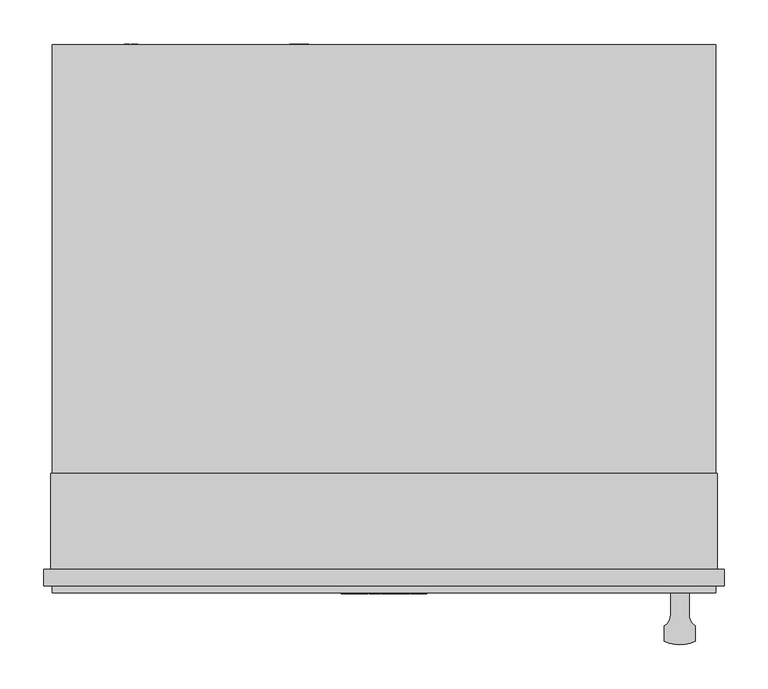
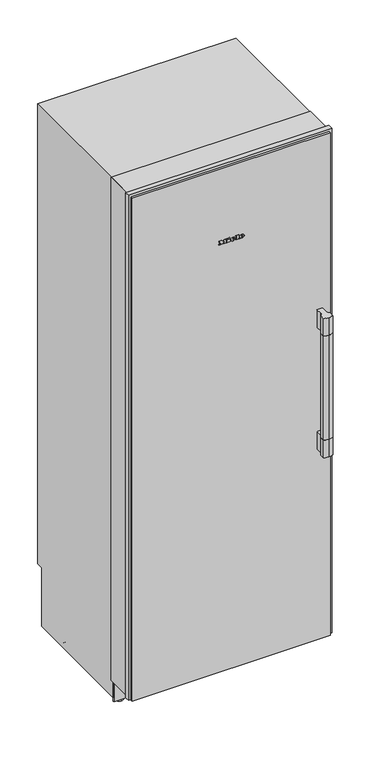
"""IFC4 building model written with IfcOpenShell, lengths in millimetres: proxy geometry, 11503350_USA_F2812SF : 37281211_USA_11503350_F2812SF."""

from ifc_helpers import new_model, si_unit, point, frame, frame_2d, origin, place, context, project, spatial, polyline, circle_curve, ellipse_curve, trimmed, segment, composite_curve, outline, extrude, faceted_brep, source, transform, mapped, element, save
from ifc_brep_helpers import plane_surface, cylinder_surface, revolved_surface, extruded_surface, advanced_brep


def specialty_equipment_0586f4f4(model_context):
    return source(origin(), model_context, "Body", "SolidModel", [
        extrude(outline(polyline([(-367.0, 68.0), (367.0, 68.0), (367.0, 21.0), (-367.0, 21.0), (-367.0, 68.0)])), frame((0.0, 0.0, 265.0), z_axis=(0.0, 0.0, 1.0), x_axis=(1.0, 0.0, 0.0)), (0.0, 0.0, 1.0), 1771.0),
        extrude(outline(polyline([(-213.5, 50.0), (213.5, 50.0), (213.5, 21.0), (-213.5, 21.0), (-213.5, 50.0)])), frame((0.0, 0.0, 2036.0), z_axis=(0.0, 0.0, 1.0), x_axis=(1.0, 0.0, 0.0)), (0.0, 0.0, 1.0), 56.0),
        extrude(outline(polyline([(265.0, 21.0), (265.0, 0.0), (265.0, -21.0), (224.0, -21.0), (224.0, -6.5), (99.0, -6.5), (99.0, 0.0), (99.0, 6.5), (224.0, 6.5), (224.0, 21.0), (265.0, 21.0)])), frame((0.0, 21.0, 0.0), z_axis=(0.0, 1.0, 0.0), x_axis=(0.0, 0.0, 1.0)), (0.0, 0.0, 1.0), 54.0),
        extrude(outline(composite_curve([segment(trimmed(circle_curve(frame_2d((310.9285714, -24.4390599)), 15.5714286), [point((319.5, -37.4390599))], [point((326.5, -24.4390599))], True, "CARTESIAN"), True, "CONTINUOUS"), segment(polyline([(326.5, -24.4390599), (326.5, 0.0), (347.5, 0.0), (347.5, -24.4390599)]), True, "CONTINUOUS"), segment(trimmed(circle_curve(frame_2d((363.0714286, -24.4390599)), 15.5714286), [point((347.5, -24.4390599))], [point((354.5, -37.4390599))], True, "CARTESIAN"), True, "CONTINUOUS"), segment(polyline([(354.5, -37.4390599), (354.5, -55.0)]), True, "CONTINUOUS"), segment(trimmed(circle_curve(frame_2d((337.0, -18.71875)), 40.28125), [point((354.5, -55.0))], [point((337.0, -59.0))], False, "CARTESIAN"), True, "CONTINUOUS"), segment(trimmed(circle_curve(frame_2d((337.0, -18.71875)), 40.28125), [point((337.0, -59.0))], [point((319.5, -55.0))], False, "CARTESIAN"), True, "CONTINUOUS"), segment(polyline([(319.5, -55.0), (319.5, -37.4390599)]), True, "CONTINUOUS")], self_intersect=False)), frame((0.0, 0.0, 858.0), z_axis=(0.0, 0.0, 1.0), x_axis=(1.0, 0.0, 0.0)), (0.0, 0.0, 1.0), 70.0),
        extrude(outline(composite_curve([segment(trimmed(circle_curve(frame_2d((310.9285714, -24.4390599)), 15.5714286), [point((319.5, -37.4390599))], [point((326.5, -24.4390599))], True, "CARTESIAN"), True, "CONTINUOUS"), segment(polyline([(326.5, -24.4390599), (326.5, 0.0), (347.5, 0.0), (347.5, -24.4390599)]), True, "CONTINUOUS"), segment(trimmed(circle_curve(frame_2d((363.0714286, -24.4390599)), 15.5714286), [point((347.5, -24.4390599))], [point((354.5, -37.4390599))], True, "CARTESIAN"), True, "CONTINUOUS"), segment(polyline([(354.5, -37.4390599), (354.5, -55.0)]), True, "CONTINUOUS"), segment(trimmed(circle_curve(frame_2d((337.0, -18.71875)), 40.28125), [point((354.5, -55.0))], [point((337.0, -59.0))], False, "CARTESIAN"), True, "CONTINUOUS"), segment(trimmed(circle_curve(frame_2d((337.0, -18.71875)), 40.28125), [point((337.0, -59.0))], [point((319.5, -55.0))], False, "CARTESIAN"), True, "CONTINUOUS"), segment(polyline([(319.5, -55.0), (319.5, -37.4390599)]), True, "CONTINUOUS")], self_intersect=False)), frame((0.0, 0.0, 1348.0), z_axis=(0.0, 0.0, 1.0), x_axis=(1.0, 0.0, 0.0)), (0.0, 0.0, 1.0), 70.0),
        extrude(outline(composite_curve([segment(trimmed(circle_curve(frame_2d((310.9285714, -24.4390599)), 15.5714286), [point((319.5, -37.4390599))], [point((321.3599688, -36.0))], True, "CARTESIAN"), True, "CONTINUOUS"), segment(polyline([(321.3599688, -36.0), (352.6400312, -36.0)]), True, "CONTINUOUS"), segment(trimmed(circle_curve(frame_2d((363.0714286, -24.4390599)), 15.5714286), [point((352.6400312, -36.0))], [point((354.5, -37.4390599))], True, "CARTESIAN"), True, "CONTINUOUS"), segment(polyline([(354.5, -37.4390599), (354.5, -55.0)]), True, "CONTINUOUS"), segment(trimmed(circle_curve(frame_2d((337.0, -18.71875)), 40.28125), [point((354.5, -55.0))], [point((337.0, -59.0))], False, "CARTESIAN"), True, "CONTINUOUS"), segment(trimmed(circle_curve(frame_2d((337.0, -18.71875)), 40.28125), [point((337.0, -59.0))], [point((319.5, -55.0))], False, "CARTESIAN"), True, "CONTINUOUS"), segment(polyline([(319.5, -55.0), (319.5, -37.4390599)]), True, "CONTINUOUS")], self_intersect=False)), frame((0.0, 0.0, 928.0), z_axis=(0.0, 0.0, 1.0), x_axis=(1.0, 0.0, 0.0)), (0.0, 0.0, 1.0), 420.0),
        extrude(outline(polyline([(-378.0, 21.0), (378.0, 21.0), (378.0, 0.0), (-378.0, 0.0), (-378.0, 21.0)])), frame((0.0, 0.0, 90.0), z_axis=(0.0, 0.0, 1.0), x_axis=(1.0, 0.0, 0.0)), (0.0, 0.0, 1.0), 2023.0),
        advanced_brep(
        [(38.22, -1.0, 1812.792), (38.22, -1.0, 1814.408), (48.924, -1.0, 1814.408), (30.3, -1.0, 1814.408), (34.7, -1.0, 1809.0), (48.652, -1.0, 1812.792), (43.82, -1.0, 1812.792), (40.012, -1.0, 1811.0), (38.22, -1.0, 1816.456), (38.22, -1.0, 1818.2), (40.956, -1.0, 1818.2), (40.956, -1.0, 1816.456), (38.22, 0.0, 1812.792), (40.012, 0.0, 1811.0), (43.82, 0.0, 1812.792), (48.652, 0.0, 1812.792), (34.7, 0.0, 1809.0), (30.3, 0.0, 1814.408), (48.924, 0.0, 1814.408), (38.22, 0.0, 1814.408), (38.22, 0.0, 1816.456), (40.956, 0.0, 1816.456), (40.956, 0.0, 1818.2), (38.22, 0.0, 1818.2)],
        [
            (0, 1),
            (1, 2),
            (2, 3, ellipse_curve(frame((39.612, -1.0, 1814.408), z_axis=(0.0, -1.0, 0.0), x_axis=(-1.0, 0.0, 0.0)), 9.312, 7.696)),
            (3, 4, circle_curve(frame((36.4920873, -1.0, 1814.952), z_axis=(0.0, -1.0, 0.0), x_axis=(0.0, 0.0, -1.0)), 6.2159376)),
            (4, 5, circle_curve(frame((39.4255872, -1.0, 1819.176), z_axis=(0.0, -1.0, 0.0), x_axis=(0.0, 0.0, -1.0)), 11.2197215)),
            (5, 6),
            (6, 7, circle_curve(frame((40.7941176, -1.0, 1814.28), z_axis=(0.0, 1.0, 0.0), x_axis=(0.0, 0.0, -1.0)), 3.3719591)),
            (7, 0, circle_curve(frame((40.012, -1.0, 1812.792), z_axis=(0.0, 1.0, 0.0), x_axis=(0.0, 0.0, -1.0)), 1.792)),
            (8, 9),
            (9, 10, circle_curve(frame((39.588, -1.0, 1818.2), z_axis=(0.0, 1.0, 0.0), x_axis=(0.0, 0.0, -1.0)), 1.368)),
            (10, 11),
            (11, 8),
            (12, 13, circle_curve(frame((40.012, 0.0, 1812.792), z_axis=(0.0, -1.0, 0.0), x_axis=(0.0, 0.0, -1.0)), 1.792)),
            (13, 14, circle_curve(frame((40.7941176, 0.0, 1814.28), z_axis=(0.0, -1.0, 0.0), x_axis=(0.0, 0.0, -1.0)), 3.3719591)),
            (14, 15),
            (15, 16, circle_curve(frame((39.4255872, 0.0, 1819.176), z_axis=(0.0, 1.0, 0.0), x_axis=(0.0, 0.0, -1.0)), 11.2197215)),
            (16, 17, circle_curve(frame((36.4920873, 0.0, 1814.952), z_axis=(0.0, 1.0, 0.0), x_axis=(0.0, 0.0, -1.0)), 6.2159376)),
            (17, 18, ellipse_curve(frame((39.612, 0.0, 1814.408), z_axis=(0.0, 1.0, 0.0), x_axis=(-1.0, 0.0, 0.0)), 9.312, 7.696)),
            (18, 19),
            (19, 12),
            (20, 21),
            (21, 22),
            (22, 23, circle_curve(frame((39.588, 0.0, 1818.2), z_axis=(0.0, -1.0, 0.0), x_axis=(0.0, 0.0, -1.0)), 1.368)),
            (23, 20),
            (0, 12),
            (19, 1),
            (18, 2),
            (5, 15),
            (14, 6),
            (17, 3),
            (13, 7),
            (16, 4),
            (8, 20),
            (23, 9),
            (22, 10),
            (21, 11),
        ],
        [
            plane_surface(frame((38.22, -1.0, 1814.408), z_axis=(0.0, -1.0, 0.0), x_axis=(0.0, 0.0, 1.0))),
            plane_surface(frame((38.22, 0.0, 1814.408), z_axis=(0.0, 1.0, 0.0), x_axis=(0.0, 0.0, -1.0))),
            plane_surface(frame((38.22, -1.0, 1812.792), z_axis=(1.0, 0.0, 0.0), x_axis=(0.0, 1.0, 0.0))),
            plane_surface(frame((38.22, -1.0, 1814.408), z_axis=(0.0, 0.0, -1.0), x_axis=(0.0, 1.0, 0.0))),
            plane_surface(frame((48.652, -1.0, 1812.792), z_axis=(0.0, 0.0, 1.0), x_axis=(0.0, 1.0, 0.0))),
            extruded_surface(trimmed(ellipse_curve(frame((39.612, 1.0, 1814.408), z_axis=(0.0, -1.0, 0.0), x_axis=(-1.0, 0.0, 0.0)), 9.312, 7.696), [point((48.924, 1.0, 1814.408))], [point((30.3, 1.0, 1814.408))], True, "CARTESIAN"), (0.0, -1.0, 0.0), 1.0),
            revolved_surface(polyline([(40.7941176, 0.0, 1810.9080409), (40.7941176, -1.0, 1810.9080409)]), (40.7941176, 0.0, 1814.28), (0.0, 1.0, 0.0)),
            revolved_surface(polyline([(40.012, 0.0, 1811.0), (40.012, -1.0, 1811.0)]), (40.012, 0.0, 1812.792), (0.0, 1.0, 0.0)),
            cylinder_surface(frame((36.4920873, 0.0, 1814.952), z_axis=(0.0, -1.0, 0.0), x_axis=(0.0, 0.0, -1.0)), 6.2159376),
            cylinder_surface(frame((39.4255872, 0.0, 1819.176), z_axis=(0.0, -1.0, 0.0), x_axis=(0.0, 0.0, -1.0)), 11.2197215),
            plane_surface(frame((38.22, -1.0, 1816.456), z_axis=(1.0, 0.0, 0.0), x_axis=(0.0, 1.0, 0.0))),
            revolved_surface(polyline([(39.588, 0.0, 1816.832), (39.588, -1.0, 1816.832)]), (39.588, 0.0, 1818.2), (0.0, 1.0, 0.0)),
            plane_surface(frame((40.956, -1.0, 1818.2), z_axis=(-1.0, 0.0, 0.0), x_axis=(0.0, 1.0, 0.0))),
            plane_surface(frame((40.956, -1.0, 1816.456), z_axis=(0.0, 0.0, 1.0), x_axis=(0.0, 1.0, 0.0))),
        ],
        [
            (0, [[1, 2, 3, 4, 5, 6, 7, 8], [9, 10, 11, 12]]),
            (1, [[13, 14, 15, 16, 17, 18, 19, 20], [21, 22, 23, 24]]),
            (2, [[-1, 25, -20, 26]]),
            (3, [[-2, -26, -19, 27]]),
            (4, [[-6, 28, -15, 29]]),
            (5, [[-3, -27, -18, 30]]),
            (6, [[-7, -29, -14, 31]]),
            (7, [[-8, -31, -13, -25]]),
            (8, [[-4, -30, -17, 32]]),
            (9, [[-5, -32, -16, -28]]),
            (10, [[-9, 33, -24, 34]]),
            (11, [[-10, -34, -23, 35]]),
            (12, [[-11, -35, -22, 36]]),
            (13, [[-12, -36, -21, -33]]),
        ],
    ),
        advanced_brep(
        [(4.828, -1.0, 1812.792), (4.828, -1.0, 1814.408), (15.532, -1.0, 1814.408), (-3.092, -1.0, 1814.408), (1.308, -1.0, 1809.0), (15.26, -1.0, 1812.792), (10.428, -1.0, 1812.792), (6.62, -1.0, 1811.0), (4.828, -1.0, 1816.456), (4.828, -1.0, 1818.2), (7.564, -1.0, 1818.2), (7.564, -1.0, 1816.456), (4.828, 0.0, 1812.792), (6.62, 0.0, 1811.0), (10.428, 0.0, 1812.792), (15.26, 0.0, 1812.792), (1.308, 0.0, 1809.0), (-3.092, 0.0, 1814.408), (15.532, 0.0, 1814.408), (4.828, 0.0, 1814.408), (4.828, 0.0, 1816.456), (7.564, 0.0, 1816.456), (7.564, 0.0, 1818.2), (4.828, 0.0, 1818.2)],
        [
            (0, 1),
            (1, 2),
            (2, 3, ellipse_curve(frame((6.22, -1.0, 1814.408), z_axis=(0.0, -1.0, 0.0), x_axis=(-1.0, 0.0, 0.0)), 9.312, 7.696)),
            (3, 4, circle_curve(frame((3.1000873, -1.0, 1814.952), z_axis=(0.0, -1.0, 0.0), x_axis=(0.0, 0.0, -1.0)), 6.2159376)),
            (4, 5, circle_curve(frame((6.0335872, -1.0, 1819.176), z_axis=(0.0, -1.0, 0.0), x_axis=(0.0, 0.0, -1.0)), 11.2197215)),
            (5, 6),
            (6, 7, circle_curve(frame((7.4021176, -1.0, 1814.28), z_axis=(0.0, 1.0, 0.0), x_axis=(0.0, 0.0, -1.0)), 3.3719591)),
            (7, 0, circle_curve(frame((6.62, -1.0, 1812.792), z_axis=(0.0, 1.0, 0.0), x_axis=(0.0, 0.0, -1.0)), 1.792)),
            (8, 9),
            (9, 10, circle_curve(frame((6.196, -1.0, 1818.2), z_axis=(0.0, 1.0, 0.0), x_axis=(0.0, 0.0, -1.0)), 1.368)),
            (10, 11),
            (11, 8),
            (12, 13, circle_curve(frame((6.62, 0.0, 1812.792), z_axis=(0.0, -1.0, 0.0), x_axis=(0.0, 0.0, -1.0)), 1.792)),
            (13, 14, circle_curve(frame((7.4021176, 0.0, 1814.28), z_axis=(0.0, -1.0, 0.0), x_axis=(0.0, 0.0, -1.0)), 3.3719591)),
            (14, 15),
            (15, 16, circle_curve(frame((6.0335872, 0.0, 1819.176), z_axis=(0.0, 1.0, 0.0), x_axis=(0.0, 0.0, -1.0)), 11.2197215)),
            (16, 17, circle_curve(frame((3.1000873, 0.0, 1814.952), z_axis=(0.0, 1.0, 0.0), x_axis=(0.0, 0.0, -1.0)), 6.2159376)),
            (17, 18, ellipse_curve(frame((6.22, 0.0, 1814.408), z_axis=(0.0, 1.0, 0.0), x_axis=(-1.0, 0.0, 0.0)), 9.312, 7.696)),
            (18, 19),
            (19, 12),
            (20, 21),
            (21, 22),
            (22, 23, circle_curve(frame((6.196, 0.0, 1818.2), z_axis=(0.0, -1.0, 0.0), x_axis=(0.0, 0.0, -1.0)), 1.368)),
            (23, 20),
            (0, 12),
            (19, 1),
            (18, 2),
            (5, 15),
            (14, 6),
            (17, 3),
            (13, 7),
            (16, 4),
            (8, 20),
            (23, 9),
            (22, 10),
            (21, 11),
        ],
        [
            plane_surface(frame((4.828, -1.0, 1814.408), z_axis=(0.0, -1.0, 0.0), x_axis=(0.0, 0.0, 1.0))),
            plane_surface(frame((4.828, 0.0, 1814.408), z_axis=(0.0, 1.0, 0.0), x_axis=(0.0, 0.0, -1.0))),
            plane_surface(frame((4.828, -1.0, 1812.792), z_axis=(1.0, 0.0, 0.0), x_axis=(0.0, 1.0, 0.0))),
            plane_surface(frame((4.828, -1.0, 1814.408), z_axis=(0.0, 0.0, -1.0), x_axis=(0.0, 1.0, 0.0))),
            plane_surface(frame((15.26, -1.0, 1812.792), z_axis=(0.0, 0.0, 1.0), x_axis=(0.0, 1.0, 0.0))),
            extruded_surface(trimmed(ellipse_curve(frame((6.22, 1.0, 1814.408), z_axis=(0.0, -1.0, 0.0), x_axis=(-1.0, 0.0, 0.0)), 9.312, 7.696), [point((15.532, 1.0, 1814.408))], [point((-3.092, 1.0, 1814.408))], True, "CARTESIAN"), (0.0, -1.0, 0.0), 1.0),
            revolved_surface(polyline([(7.4021176, 0.0, 1810.9080409), (7.4021176, -1.0, 1810.9080409)]), (7.4021176, 0.0, 1814.28), (0.0, 1.0, 0.0)),
            revolved_surface(polyline([(6.62, 0.0, 1811.0), (6.62, -1.0, 1811.0)]), (6.62, 0.0, 1812.792), (0.0, 1.0, 0.0)),
            cylinder_surface(frame((3.1000873, 0.0, 1814.952), z_axis=(0.0, -1.0, 0.0), x_axis=(0.0, 0.0, -1.0)), 6.2159376),
            cylinder_surface(frame((6.0335872, 0.0, 1819.176), z_axis=(0.0, -1.0, 0.0), x_axis=(0.0, 0.0, -1.0)), 11.2197215),
            plane_surface(frame((4.828, -1.0, 1816.456), z_axis=(1.0, 0.0, 0.0), x_axis=(0.0, 1.0, 0.0))),
            revolved_surface(polyline([(6.196, 0.0, 1816.832), (6.196, -1.0, 1816.832)]), (6.196, 0.0, 1818.2), (0.0, 1.0, 0.0)),
            plane_surface(frame((7.564, -1.0, 1818.2), z_axis=(-1.0, 0.0, 0.0), x_axis=(0.0, 1.0, 0.0))),
            plane_surface(frame((7.564, -1.0, 1816.456), z_axis=(0.0, 0.0, 1.0), x_axis=(0.0, 1.0, 0.0))),
        ],
        [
            (0, [[1, 2, 3, 4, 5, 6, 7, 8], [9, 10, 11, 12]]),
            (1, [[13, 14, 15, 16, 17, 18, 19, 20], [21, 22, 23, 24]]),
            (2, [[-1, 25, -20, 26]]),
            (3, [[-2, -26, -19, 27]]),
            (4, [[-6, 28, -15, 29]]),
            (5, [[-3, -27, -18, 30]]),
            (6, [[-7, -29, -14, 31]]),
            (7, [[-8, -31, -13, -25]]),
            (8, [[-4, -30, -17, 32]]),
            (9, [[-5, -32, -16, -28]]),
            (10, [[-9, 33, -24, 34]]),
            (11, [[-10, -34, -23, 35]]),
            (12, [[-11, -35, -22, 36]]),
            (13, [[-12, -36, -21, -33]]),
        ],
    ),
        extrude(outline(polyline([(1824.056, -12.66), (1821.464, -11.444), (1823.992, -6.02), (1826.584, -7.22), (1824.056, -12.66)])), frame((0.0, -1.0, 0.0), z_axis=(0.0, 1.0, 0.0), x_axis=(0.0, 0.0, 1.0)), (0.0, 0.0, 1.0), 1.0),
        extrude(outline(polyline([(1821.112, -16.612), (1818.248, -16.612), (1818.248, -14.708), (1811.688, -14.708), (1811.688, -16.612), (1809.0, -16.612), (1809.0, -3.988), (1811.688, -3.988), (1811.688, -5.844), (1821.112, -5.844), (1821.112, -16.612)])), frame((0.0, -1.0, 0.0), z_axis=(0.0, 1.0, 0.0), x_axis=(0.0, 0.0, 1.0)), (0.0, 0.0, 1.0), 1.0),
        extrude(outline(polyline([(1822.392, 16.428), (1822.392, 18.348), (1811.688, 18.348), (1811.688, 16.428), (1809.0, 16.428), (1809.0, 29.404), (1811.688, 29.404), (1811.688, 27.436), (1825.0, 27.436), (1825.0, 16.428), (1822.392, 16.428)])), frame((0.0, -1.0, 0.0), z_axis=(0.0, 1.0, 0.0), x_axis=(0.0, 0.0, 1.0)), (0.0, 0.0, 1.0), 1.0),
        extrude(outline(polyline([(1822.392, -48.5), (1822.392, -46.564), (1811.688, -46.564), (1811.688, -48.5), (1809.0, -48.5), (1809.0, -41.46), (1811.688, -41.46), (1811.688, -43.38), (1818.4431247, -43.38), (1809.0, -36.228), (1818.8152223, -29.044), (1811.688, -29.044), (1811.688, -31.012), (1809.0, -31.012), (1809.0, -18.244), (1811.688, -18.244), (1811.688, -20.276), (1822.392, -20.276), (1822.392, -18.244), (1825.0, -18.244), (1825.0, -27.988), (1819.0, -32.66), (1825.0, -37.348), (1825.0, -48.5), (1822.392, -48.5)])), frame((0.0, -1.0, 0.0), z_axis=(0.0, 1.0, 0.0), x_axis=(0.0, 0.0, 1.0)), (0.0, 0.0, 1.0), 1.0),
        extrude(outline(polyline([(540.0, 1998.0), (540.0, 1791.0), (471.0, 1791.0), (443.0, 1867.0), (222.7448904, 1867.0), (178.0, 1939.0), (108.0, 1949.0), (108.0, 1998.0), (540.0, 1998.0)])), frame((-332.0, 0.0, 0.0), z_axis=(1.0, 0.0, 0.0), x_axis=(0.0, 1.0, 0.0)), (0.0, 0.0, 1.0), 664.0),
        extrude(outline(polyline([(217.9886114, 1875.0), (216.809433, 1875.0), (179.6921935, 1934.4), (180.8713719, 1934.4), (217.9886114, 1875.0)])), frame((-69.0, 0.0, 0.0), z_axis=(1.0, 0.0, 0.0), x_axis=(0.0, 1.0, 0.0)), (0.0, 0.0, 1.0), 138.0),
        extrude(outline(polyline([(46.0510837, -95.101717), (37.4134902, -97.1745179), (46.0453554, -99.6868463), (46.0453554, -101.5601414), (37.4089549, -104.0799633), (46.0493903, -106.1581876), (46.0493903, -107.4649805), (36.0005458, -104.7156324), (36.0005458, -103.372208), (44.8261022, -100.6342221), (35.9987467, -98.0620509), (35.9987287, -96.5451466), (46.0510837, -93.800191), (46.0510837, -95.101717)])), frame((0.0, 625.0, 0.0), z_axis=(0.0, 1.0, 0.0), x_axis=(0.0, 0.0, 1.0)), (0.0, 0.0, 1.0), 1.0),
        extrude(outline(polyline([(46.0485238, -86.7401503), (41.1363122, -86.7401503), (46.0468162, -91.884602), (46.0468162, -93.6328316), (41.9156889, -89.3260313), (36.000035, -93.8032231), (36.000035, -92.2795519), (41.0742849, -88.4391666), (39.4525334, -86.7395503), (35.9999292, -86.7395503), (35.9999292, -85.4795491), (46.0485238, -85.4795491), (46.0485238, -86.7401503)])), frame((0.0, 625.0, 0.0), z_axis=(0.0, 1.0, 0.0), x_axis=(0.0, 0.0, 1.0)), (0.0, 0.0, 1.0), 1.0),
        extrude(outline(composite_curve([segment(trimmed(circle_curve(frame_2d((41.0, -96.0)), 7.5), [point((33.5, -96.0))], [point((48.5, -96.0))], False, "CARTESIAN"), True, "CONTINUOUS"), segment(trimmed(circle_curve(frame_2d((41.0, -96.0)), 7.5), [point((48.5, -96.0))], [point((33.5, -96.0))], False, "CARTESIAN"), True, "CONTINUOUS")], self_intersect=False)), frame((0.0, 598.0, 0.0), z_axis=(0.0, 1.0, 0.0), x_axis=(0.0, 0.0, 1.0)), (0.0, 0.0, 1.0), 27.0),
        extrude(outline(polyline([(2095.0, -371.5), (2047.0, -371.5), (2047.0, -337.5), (2036.5, -337.5), (2036.5, -222.5), (2047.0, -222.5), (2047.0, -216.5), (2095.0, -216.5), (2095.0, -371.5)])), frame((0.0, 21.0, 0.0), z_axis=(0.0, 1.0, 0.0), x_axis=(0.0, 0.0, 1.0)), (0.0, 0.0, 1.0), 47.0),
        extrude(outline(polyline([(254.0, -371.5), (206.0, -371.5), (206.0, -216.5), (254.0, -216.5), (254.0, -222.5), (264.0, -222.5), (264.0, -337.5), (254.0, -337.5), (254.0, -371.5)])), frame((0.0, 21.0, 0.0), z_axis=(0.0, 1.0, 0.0), x_axis=(0.0, 0.0, 1.0)), (0.0, 0.0, 1.0), 54.0),
        extrude(outline(polyline([(99.0373308, -287.7645771), (97.7615342, -287.7645771), (97.7615342, -281.8195541), (94.7968516, -281.8195541), (94.7968516, -287.469579), (93.5246295, -287.469579), (93.5246295, -281.8415693), (90.2570046, -281.8415693), (90.2570046, -287.9619689), (88.9546219, -287.9619689), (88.9546219, -280.5443524), (99.0373308, -280.5443524), (99.0373308, -287.7645771)])), frame((0.0, 625.0, 0.0), z_axis=(0.0, 1.0, 0.0), x_axis=(0.0, 0.0, 1.0)), (0.0, 0.0, 1.0), 1.0),
        extrude(outline(polyline([(99.0458, -291.0619704), (90.2663944, -291.0619704), (90.2663944, -296.1145879), (89.0134802, -296.1145879), (89.0134802, -289.8423809), (99.0458, -289.8423809), (99.0458, -291.0619704)])), frame((0.0, 625.0, 0.0), z_axis=(0.0, 1.0, 0.0), x_axis=(0.0, 0.0, 1.0)), (0.0, 0.0, 1.0), 1.0),
        extrude(outline(composite_curve([segment(trimmed(circle_curve(frame_2d((94.0, -288.0)), 7.5), [point((86.5, -288.0))], [point((101.5, -288.0))], False, "CARTESIAN"), True, "CONTINUOUS"), segment(trimmed(circle_curve(frame_2d((94.0, -288.0)), 7.5), [point((101.5, -288.0))], [point((86.5, -288.0))], False, "CARTESIAN"), True, "CONTINUOUS")], self_intersect=False)), frame((0.0, 598.0, 0.0), z_axis=(0.0, 1.0, 0.0), x_axis=(0.0, 0.0, 1.0)), (0.0, 0.0, 1.0), 27.0),
        extrude(outline(polyline([(-378.0, 125.0), (378.0, 125.0), (378.0, 120.0), (-378.0, 120.0), (-378.0, 125.0)])), frame((0.0, 0.0, 14.0), z_axis=(0.0, 0.0, 1.0), x_axis=(1.0, 0.0, 0.0)), (0.0, 0.0, 1.0), 83.0),
        advanced_brep(
        [(-344.0, 160.0, 0.0), (-344.0, 130.0, 0.0), (-344.0, 160.0, 7.0), (-344.0, 130.0, 7.0), (-344.0, 149.7, 7.0), (-344.0, 140.3, 7.0), (-344.0, 149.7, 28.0), (-344.0, 140.3, 28.0)],
        [
            (0, 1, circle_curve(frame((-344.0, 145.0, 0.0), z_axis=(0.0, 0.0, -1.0), x_axis=(1.0, 0.0, 0.0)), 15.0)),
            (1, 0, circle_curve(frame((-344.0, 145.0, 0.0), z_axis=(0.0, 0.0, -1.0), x_axis=(1.0, 0.0, 0.0)), 15.0)),
            (2, 3, circle_curve(frame((-344.0, 145.0, 7.0), z_axis=(0.0, 0.0, 1.0), x_axis=(1.0, 0.0, 0.0)), 15.0)),
            (3, 2, circle_curve(frame((-344.0, 145.0, 7.0), z_axis=(0.0, 0.0, 1.0), x_axis=(1.0, 0.0, 0.0)), 15.0)),
            (4, 5, circle_curve(frame((-344.0, 145.0, 7.0), z_axis=(0.0, 0.0, -1.0), x_axis=(0.0, -1.0, 0.0)), 4.7)),
            (5, 4, circle_curve(frame((-344.0, 145.0, 7.0), z_axis=(0.0, 0.0, -1.0), x_axis=(0.0, -1.0, 0.0)), 4.7)),
            (0, 2),
            (3, 1),
            (6, 7, circle_curve(frame((-344.0, 145.0, 28.0), z_axis=(0.0, 0.0, 1.0), x_axis=(0.0, -1.0, 0.0)), 4.7)),
            (7, 6, circle_curve(frame((-344.0, 145.0, 28.0), z_axis=(0.0, 0.0, 1.0), x_axis=(0.0, -1.0, 0.0)), 4.7)),
            (7, 5),
            (4, 6),
        ],
        [
            plane_surface(frame((-329.0, 145.0, 0.0), z_axis=(0.0, 0.0, -1.0), x_axis=(0.0, -1.0, 0.0))),
            plane_surface(frame((-329.0, 145.0, 7.0), z_axis=(0.0, 0.0, 1.0), x_axis=(0.0, 1.0, 0.0))),
            cylinder_surface(frame((-344.0, 145.0, 7.0), z_axis=(0.0, 0.0, -1.0), x_axis=(1.0, 0.0, 0.0)), 15.0),
            plane_surface(frame((-344.0, 140.3, 28.0), z_axis=(0.0, 0.0, 1.0), x_axis=(1.0, 0.0, 0.0))),
            cylinder_surface(frame((-344.0, 145.0, 28.0), z_axis=(0.0, 0.0, -1.0), x_axis=(0.0, -1.0, 0.0)), 4.7),
        ],
        [
            (0, [[1, 2]]),
            (1, [[3, 4], [5, 6]]),
            (2, [[-1, 7, -4, 8]]),
            (2, [[-2, -8, -3, -7]]),
            (3, [[9, 10]]),
            (4, [[-10, 11, -5, 12]]),
            (4, [[-9, -12, -6, -11]]),
        ],
    ),
        advanced_brep(
        [(344.0, 160.0, 0.0), (344.0, 130.0, 0.0), (344.0, 160.0, 7.0), (344.0, 130.0, 7.0), (344.0, 149.7, 7.0), (344.0, 140.3, 7.0), (344.0, 149.7, 28.0), (344.0, 140.3, 28.0)],
        [
            (0, 1, circle_curve(frame((344.0, 145.0, 0.0), z_axis=(0.0, 0.0, -1.0), x_axis=(1.0, 0.0, 0.0)), 15.0)),
            (1, 0, circle_curve(frame((344.0, 145.0, 0.0), z_axis=(0.0, 0.0, -1.0), x_axis=(1.0, 0.0, 0.0)), 15.0)),
            (2, 3, circle_curve(frame((344.0, 145.0, 7.0), z_axis=(0.0, 0.0, 1.0), x_axis=(1.0, 0.0, 0.0)), 15.0)),
            (3, 2, circle_curve(frame((344.0, 145.0, 7.0), z_axis=(0.0, 0.0, 1.0), x_axis=(1.0, 0.0, 0.0)), 15.0)),
            (4, 5, circle_curve(frame((344.0, 145.0, 7.0), z_axis=(0.0, 0.0, -1.0), x_axis=(0.0, -1.0, 0.0)), 4.7)),
            (5, 4, circle_curve(frame((344.0, 145.0, 7.0), z_axis=(0.0, 0.0, -1.0), x_axis=(0.0, -1.0, 0.0)), 4.7)),
            (0, 2),
            (3, 1),
            (6, 7, circle_curve(frame((344.0, 145.0, 28.0), z_axis=(0.0, 0.0, 1.0), x_axis=(0.0, -1.0, 0.0)), 4.7)),
            (7, 6, circle_curve(frame((344.0, 145.0, 28.0), z_axis=(0.0, 0.0, 1.0), x_axis=(0.0, -1.0, 0.0)), 4.7)),
            (7, 5),
            (4, 6),
        ],
        [
            plane_surface(frame((-329.0, 145.0, 0.0), z_axis=(0.0, 0.0, -1.0), x_axis=(0.0, -1.0, 0.0))),
            plane_surface(frame((-329.0, 145.0, 7.0), z_axis=(0.0, 0.0, 1.0), x_axis=(0.0, 1.0, 0.0))),
            cylinder_surface(frame((344.0, 145.0, 7.0), z_axis=(0.0, 0.0, -1.0), x_axis=(1.0, 0.0, 0.0)), 15.0),
            plane_surface(frame((-344.0, 140.3, 28.0), z_axis=(0.0, 0.0, 1.0), x_axis=(1.0, 0.0, 0.0))),
            cylinder_surface(frame((344.0, 145.0, 28.0), z_axis=(0.0, 0.0, -1.0), x_axis=(0.0, -1.0, 0.0)), 4.7),
        ],
        [
            (0, [[1, 2]]),
            (1, [[3, 4], [5, 6]]),
            (2, [[-1, 7, -4, 8]]),
            (2, [[-2, -8, -3, -7]]),
            (3, [[9, 10]]),
            (4, [[-10, 11, -5, 12]]),
            (4, [[-9, -12, -6, -11]]),
        ],
    ),
        advanced_brep(
        [(378.0, 68.0, 2114.0), (378.0, 68.0, 267.0), (378.0, 75.0, 267.0), (378.0, 75.0, 97.0), (378.0, 125.0, 97.0), (378.0, 125.0, 28.0), (378.0, 598.0, 28.0), (378.0, 598.0, 263.0), (378.0, 625.0, 263.0), (378.0, 625.0, 2114.0), (-378.0, 68.0, 2114.0), (-378.0, 625.0, 2114.0), (-378.0, 625.0, 263.0), (-378.0, 598.0, 263.0), (-378.0, 598.0, 28.0), (-378.0, 125.0, 28.0), (-378.0, 125.0, 97.0), (-378.0, 75.0, 97.0), (-378.0, 75.0, 267.0), (-378.0, 68.0, 267.0), (318.0, 598.0, 28.0), (318.0, 598.0, 14.0), (-318.0, 598.0, 14.0), (-318.0, 598.0, 28.0), (318.0, 125.0, 14.0), (-318.0, 125.0, 14.0), (-318.0, 125.0, 28.0), (318.0, 125.0, 28.0), (332.0, 68.0, 1998.0), (332.0, 68.0, 343.0), (-332.0, 68.0, 343.0), (-332.0, 68.0, 1998.0), (332.0, 540.0, 1998.0), (-332.0, 540.0, 1998.0), (-332.0, 540.0, 343.0), (332.0, 540.0, 343.0), (-336.5, 223.8193473, 28.0), (-355.5, 223.8193473, 28.0), (-355.5, 174.1806527, 28.0), (-336.5, 174.1806527, 28.0), (-356.0, 546.8193473, 28.0), (-356.0, 497.1806527, 28.0), (-340.0, 497.1806527, 28.0), (-340.0, 546.8193473, 28.0), (355.5, 174.1806527, 28.0), (355.5, 223.8193473, 28.0), (336.5, 223.8193473, 28.0), (336.5, 174.1806527, 28.0), (340.0, 546.8193473, 28.0), (340.0, 497.1806527, 28.0), (356.0, 497.1806527, 28.0), (356.0, 546.8193473, 28.0), (-336.5, 224.0, 25.0), (-336.5, 174.0, 25.0), (-355.5, 174.0, 25.0), (-355.5, 224.0, 25.0), (-336.5, 199.0, 25.0), (-355.5, 199.0, 25.0), (355.5, 199.0, 25.0), (355.5, 174.0, 25.0), (355.5, 224.0, 25.0), (336.5, 224.0, 25.0), (336.5, 174.0, 25.0), (336.5, 199.0, 25.0), (-356.0, 547.0, 25.0), (-356.0, 497.0, 25.0), (-356.0, 522.0, 25.0), (-340.0, 547.0, 25.0), (-340.0, 497.0, 25.0), (-340.0, 522.0, 25.0), (340.0, 547.0, 25.0), (340.0, 497.0, 25.0), (340.0, 522.0, 25.0), (356.0, 547.0, 25.0), (356.0, 497.0, 25.0), (356.0, 522.0, 25.0)],
        [
            (0, 1),
            (1, 2),
            (2, 3),
            (3, 4),
            (4, 5),
            (5, 6),
            (6, 7),
            (7, 8),
            (8, 9),
            (9, 0),
            (10, 11),
            (11, 12),
            (12, 13),
            (13, 14),
            (14, 15),
            (15, 16),
            (16, 17),
            (17, 18),
            (18, 19),
            (19, 10),
            (9, 11),
            (10, 0),
            (8, 12),
            (7, 13),
            (6, 20),
            (20, 21),
            (21, 22),
            (22, 23),
            (23, 14),
            (21, 24),
            (24, 25),
            (25, 22),
            (4, 16),
            (15, 26),
            (26, 25),
            (24, 27),
            (27, 5),
            (3, 17),
            (2, 18),
            (1, 19),
            (28, 29),
            (29, 30),
            (30, 31),
            (31, 28),
            (32, 33),
            (33, 34),
            (34, 35),
            (35, 32),
            (35, 29),
            (28, 32),
            (34, 30),
            (33, 31),
            (23, 26),
            (36, 37),
            (37, 38),
            (38, 39),
            (39, 36),
            (40, 41),
            (41, 42),
            (42, 43),
            (43, 40),
            (27, 20),
            (44, 45),
            (45, 46),
            (46, 47),
            (47, 44),
            (48, 49),
            (49, 50),
            (50, 51),
            (51, 48),
            (52, 53, circle_curve(frame((-336.5, 199.0, 25.0), z_axis=(-1.0, 0.0, 0.0), x_axis=(0.0, -1.0, 0.0)), 25.0)),
            (53, 54),
            (54, 55, circle_curve(frame((-355.5, 199.0, 25.0), z_axis=(1.0, 0.0, 0.0), x_axis=(0.0, -1.0, 0.0)), 25.0)),
            (55, 52),
            (53, 39, circle_curve(frame((-336.5, 199.0, 25.0), z_axis=(-1.0, 0.0, 0.0), x_axis=(0.0, -1.0, 0.0)), 25.0)),
            (38, 54, circle_curve(frame((-355.5, 199.0, 25.0), z_axis=(1.0, 0.0, 0.0), x_axis=(0.0, -1.0, 0.0)), 25.0)),
            (55, 37, circle_curve(frame((-355.5, 199.0, 25.0), z_axis=(1.0, 0.0, 0.0), x_axis=(0.0, -1.0, 0.0)), 25.0)),
            (36, 52, circle_curve(frame((-336.5, 199.0, 25.0), z_axis=(-1.0, 0.0, 0.0), x_axis=(0.0, -1.0, 0.0)), 25.0)),
            (52, 56),
            (56, 53),
            (54, 57),
            (57, 55),
            (58, 59),
            (59, 60, circle_curve(frame((355.5, 199.0, 25.0), z_axis=(1.0, 0.0, 0.0), x_axis=(0.0, -1.0, 0.0)), 25.0)),
            (60, 58),
            (60, 45, circle_curve(frame((355.5, 199.0, 25.0), z_axis=(1.0, 0.0, 0.0), x_axis=(0.0, -1.0, 0.0)), 25.0)),
            (44, 59, circle_curve(frame((355.5, 199.0, 25.0), z_axis=(1.0, 0.0, 0.0), x_axis=(0.0, -1.0, 0.0)), 25.0)),
            (61, 62, circle_curve(frame((336.5, 199.0, 25.0), z_axis=(-1.0, 0.0, 0.0), x_axis=(0.0, -1.0, 0.0)), 25.0)),
            (62, 63),
            (63, 61),
            (62, 47, circle_curve(frame((336.5, 199.0, 25.0), z_axis=(-1.0, 0.0, 0.0), x_axis=(0.0, -1.0, 0.0)), 25.0)),
            (46, 61, circle_curve(frame((336.5, 199.0, 25.0), z_axis=(-1.0, 0.0, 0.0), x_axis=(0.0, -1.0, 0.0)), 25.0)),
            (64, 65, circle_curve(frame((-356.0, 522.0, 25.0), z_axis=(-1.0, 0.0, 0.0), x_axis=(0.0, -1.0, 0.0)), 25.0)),
            (65, 66),
            (66, 64),
            (65, 41, circle_curve(frame((-356.0, 522.0, 25.0), z_axis=(-1.0, 0.0, 0.0), x_axis=(0.0, -1.0, 0.0)), 25.0)),
            (40, 64, circle_curve(frame((-356.0, 522.0, 25.0), z_axis=(-1.0, 0.0, 0.0), x_axis=(0.0, -1.0, 0.0)), 25.0)),
            (64, 67),
            (67, 68, circle_curve(frame((-340.0, 522.0, 25.0), z_axis=(-1.0, 0.0, 0.0), x_axis=(0.0, -1.0, 0.0)), 25.0)),
            (68, 65),
            (43, 67, circle_curve(frame((-340.0, 522.0, 25.0), z_axis=(-1.0, 0.0, 0.0), x_axis=(0.0, -1.0, 0.0)), 25.0)),
            (68, 42, circle_curve(frame((-340.0, 522.0, 25.0), z_axis=(-1.0, 0.0, 0.0), x_axis=(0.0, -1.0, 0.0)), 25.0)),
            (67, 69),
            (69, 68),
            (70, 71, circle_curve(frame((340.0, 522.0, 25.0), z_axis=(-1.0, 0.0, 0.0), x_axis=(0.0, -1.0, 0.0)), 25.0)),
            (71, 72),
            (72, 70),
            (71, 49, circle_curve(frame((340.0, 522.0, 25.0), z_axis=(-1.0, 0.0, 0.0), x_axis=(0.0, -1.0, 0.0)), 25.0)),
            (48, 70, circle_curve(frame((340.0, 522.0, 25.0), z_axis=(-1.0, 0.0, 0.0), x_axis=(0.0, -1.0, 0.0)), 25.0)),
            (70, 73),
            (73, 74, circle_curve(frame((356.0, 522.0, 25.0), z_axis=(-1.0, 0.0, 0.0), x_axis=(0.0, -1.0, 0.0)), 25.0)),
            (74, 71),
            (51, 73, circle_curve(frame((356.0, 522.0, 25.0), z_axis=(-1.0, 0.0, 0.0), x_axis=(0.0, -1.0, 0.0)), 25.0)),
            (74, 50, circle_curve(frame((356.0, 522.0, 25.0), z_axis=(-1.0, 0.0, 0.0), x_axis=(0.0, -1.0, 0.0)), 25.0)),
            (73, 75),
            (75, 74),
            (59, 62),
            (61, 60),
        ],
        [
            plane_surface(frame((378.0, 625.0, 2114.0), z_axis=(1.0, 0.0, 0.0), x_axis=(0.0, -1.0, 0.0))),
            plane_surface(frame((-378.0, 625.0, 2114.0), z_axis=(-1.0, 0.0, 0.0), x_axis=(0.0, 1.0, 0.0))),
            plane_surface(frame((-378.0, 68.0, 2114.0), z_axis=(0.0, 0.0, 1.0), x_axis=(1.0, 0.0, 0.0))),
            plane_surface(frame((-378.0, 625.0, 2114.0), z_axis=(0.0, 1.0, 0.0), x_axis=(1.0, 0.0, 0.0))),
            plane_surface(frame((-378.0, 625.0, 263.0), z_axis=(0.0, 0.0, -1.0), x_axis=(1.0, 0.0, 0.0))),
            plane_surface(frame((-378.0, 598.0, 263.0), z_axis=(0.0, 1.0, 0.0), x_axis=(1.0, 0.0, 0.0))),
            plane_surface(frame((-378.0, 598.0, 14.0), z_axis=(0.0, 0.0, -1.0), x_axis=(1.0, 0.0, 0.0))),
            plane_surface(frame((-378.0, 125.0, 14.0), z_axis=(0.0, -1.0, 0.0), x_axis=(1.0, 0.0, 0.0))),
            plane_surface(frame((-378.0, 125.0, 97.0), z_axis=(0.0, 0.0, -1.0), x_axis=(1.0, 0.0, 0.0))),
            plane_surface(frame((-378.0, 75.0, 97.0), z_axis=(0.0, -1.0, 0.0), x_axis=(1.0, 0.0, 0.0))),
            plane_surface(frame((-378.0, 75.0, 267.0), z_axis=(0.0, 0.0, -1.0), x_axis=(1.0, 0.0, 0.0))),
            plane_surface(frame((-378.0, 68.0, 267.0), z_axis=(0.0, -1.0, 0.0), x_axis=(1.0, 0.0, 0.0))),
            plane_surface(frame((332.0, 540.0, 1998.0), z_axis=(0.0, -1.0, 0.0), x_axis=(0.0, 0.0, -1.0))),
            plane_surface(frame((332.0, 540.0, 1998.0), z_axis=(-1.0, 0.0, 0.0), x_axis=(0.0, -1.0, 0.0))),
            plane_surface(frame((332.0, 540.0, 343.0), z_axis=(0.0, 0.0, 1.0), x_axis=(0.0, -1.0, 0.0))),
            plane_surface(frame((-332.0, 540.0, 343.0), z_axis=(1.0, 0.0, 0.0), x_axis=(0.0, -1.0, 0.0))),
            plane_surface(frame((-332.0, 540.0, 1998.0), z_axis=(0.0, 0.0, -1.0), x_axis=(0.0, -1.0, 0.0))),
            plane_surface(frame((-378.0, 625.0, 28.0), z_axis=(0.0, 0.0, -1.0), x_axis=(-1.0, 0.0, 0.0))),
            plane_surface(frame((-318.0, 125.0, 28.0), z_axis=(-1.0, 0.0, 0.0), x_axis=(0.0, 0.0, -1.0))),
            plane_surface(frame((318.0, 625.0, 28.0), z_axis=(1.0, 0.0, 0.0), x_axis=(0.0, 0.0, -1.0))),
            cylinder_surface(frame((-470.6988927, 199.0, 25.0), z_axis=(1.0, 0.0, 0.0), x_axis=(0.0, -1.0, 0.0)), 25.0),
            plane_surface(frame((-336.5, 199.0, 25.0), z_axis=(1.0, 0.0, 0.0), x_axis=(0.0, -1.0, 0.0))),
            plane_surface(frame((-355.5, 199.0, 25.0), z_axis=(-1.0, 0.0, 0.0), x_axis=(0.0, -1.0, 0.0))),
            plane_surface(frame((355.5, 199.0, 25.0), z_axis=(1.0, 0.0, 0.0), x_axis=(0.0, -1.0, 0.0))),
            plane_surface(frame((336.5, 199.0, 25.0), z_axis=(-1.0, 0.0, 0.0), x_axis=(0.0, -1.0, 0.0))),
            plane_surface(frame((-356.0, 522.0, 25.0), z_axis=(-1.0, 0.0, 0.0), x_axis=(0.0, -1.0, 0.0))),
            cylinder_surface(frame((-470.6988927, 522.0, 25.0), z_axis=(1.0, 0.0, 0.0), x_axis=(0.0, -1.0, 0.0)), 25.0),
            plane_surface(frame((-340.0, 522.0, 25.0), z_axis=(1.0, 0.0, 0.0), x_axis=(0.0, -1.0, 0.0))),
            plane_surface(frame((340.0, 522.0, 25.0), z_axis=(-1.0, 0.0, 0.0), x_axis=(0.0, -1.0, 0.0))),
            plane_surface(frame((356.0, 522.0, 25.0), z_axis=(1.0, 0.0, 0.0), x_axis=(0.0, -1.0, 0.0))),
        ],
        [
            (0, [[1, 2, 3, 4, 5, 6, 7, 8, 9, 10]]),
            (1, [[11, 12, 13, 14, 15, 16, 17, 18, 19, 20]]),
            (2, [[-10, 21, -11, 22]]),
            (3, [[-9, 23, -12, -21]]),
            (4, [[-8, 24, -13, -23]]),
            (5, [[-24, -7, 25, 26, 27, 28, 29, -14]]),
            (6, [[-27, 30, 31, 32]]),
            (7, [[33, -16, 34, 35, -31, 36, 37, -5]]),
            (8, [[-4, 38, -17, -33]]),
            (9, [[-3, 39, -18, -38]]),
            (10, [[-2, 40, -19, -39]]),
            (11, [[-1, -22, -20, -40], [41, 42, 43, 44]]),
            (12, [[45, 46, 47, 48]]),
            (13, [[-48, 49, -41, 50]]),
            (14, [[-47, 51, -42, -49]]),
            (15, [[-46, 52, -43, -51]]),
            (16, [[-45, -50, -44, -52]]),
            (17, [[53, -34, -15, -29], [54, 55, 56, 57], [58, 59, 60, 61]]),
            (17, [[62, -25, -6, -37], [63, 64, 65, 66], [67, 68, 69, 70]]),
            (18, [[-53, -28, -32, -35]]),
            (19, [[-62, -36, -30, -26]]),
            (20, [[71, 72, 73, 74]]),
            (20, [[-72, 75, -56, 76]]),
            (20, [[-74, 77, -54, 78]]),
            (21, [[-71, 79, 80]]),
            (21, [[-80, -79, -78, -57, -75]]),
            (22, [[-73, 81, 82]]),
            (22, [[-81, -76, -55, -77, -82]]),
            (23, [[83, 84, 85]]),
            (23, [[-83, -85, 86, -63, 87]]),
            (24, [[88, 89, 90]]),
            (24, [[-89, 91, -65, 92, -90]]),
            (25, [[93, 94, 95]]),
            (25, [[-94, 96, -58, 97, -95]]),
            (26, [[-93, 98, 99, 100]]),
            (26, [[-98, -97, -61, 101]]),
            (26, [[-100, 102, -59, -96]]),
            (27, [[-99, 103, 104]]),
            (27, [[-104, -103, -101, -60, -102]]),
            (28, [[105, 106, 107]]),
            (28, [[-106, 108, -67, 109, -107]]),
            (26, [[-105, 110, 111, 112]]),
            (26, [[-110, -109, -70, 113]]),
            (26, [[-112, 114, -68, -108]]),
            (29, [[-111, 115, 116]]),
            (29, [[-116, -115, -113, -69, -114]]),
            (20, [[-84, 117, -88, 118]]),
            (20, [[-117, -87, -66, -91]]),
            (20, [[-118, -92, -64, -86]]),
        ],
    ),
        faceted_brep([(-387.5, 27.0, 91.0), (-387.5, 27.0, 2123.0), (387.5, 27.0, 2123.0), (387.5, 27.0, 91.0), (379.7, 27.0, 91.0), (379.7, 27.0, 2115.0), (-379.7, 27.0, 2115.0), (-379.7, 27.0, 91.0), (378.0, 8.0, 2114.0), (378.0, 8.0, 91.0), (387.5, 8.0, 91.0), (387.5, 8.0, 2123.0), (-387.5, 8.0, 2123.0), (-387.5, 8.0, 91.0), (-378.0, 8.0, 91.0), (-378.0, 8.0, 2114.0), (378.0, 136.0, 2114.0), (378.0, 136.0, 91.0), (-378.0, 136.0, 91.0), (-378.0, 136.0, 2114.0), (-379.7, 136.0, 91.0), (379.7, 136.0, 91.0), (-379.7, 136.0, 2115.0), (379.7, 136.0, 2115.0)], [[[0, 1, 2, 3, 4, 5, 6, 7]], [[8, 9, 10, 11, 12, 13, 14, 15]], [[9, 8, 16, 17]], [[15, 14, 18, 19]], [[16, 8, 15, 19]], [[18, 14, 13, 0, 7, 20]], [[1, 0, 13, 12]], [[2, 1, 12, 11]], [[3, 2, 11, 10]], [[10, 9, 17, 21, 4, 3]], [[16, 19, 18, 20, 22, 23, 21, 17]], [[22, 20, 7, 6]], [[23, 22, 6, 5]], [[21, 23, 5, 4]]]),
    ])


if __name__ == "__main__":
    model = new_model("IFC4")
    model_context = context("Model", 3, world=origin())
    ifc_project = project(units=[si_unit("LENGTHUNIT", "METRE", prefix="MILLI")], contexts=[model_context])
    site = spatial("IfcSite", under=ifc_project)
    building = spatial("IfcBuilding", under=site)
    placement = place(None, origin())
    specialty_equipment_shape = specialty_equipment_0586f4f4(model_context)
    element("IfcBuildingElementProxy", 1, Name="11503350_USA_F2812SF : 37281211_USA_11503350_F2812SF", ObjectType="11503350_USA_F2812SF : 37281211_USA_11503350_F2812SF", at=placement, inside=building, context=model_context, shape_type="MappedRepresentation", body=[
        mapped(specialty_equipment_shape, transform((0.0, 0.0, 0.0), x_axis=(1.0, 0.0, 0.0), y_axis=(0.0, 1.0, 0.0), z_axis=(0.0, 0.0, 1.0))),
    ])
    save(model, "model.ifc")
